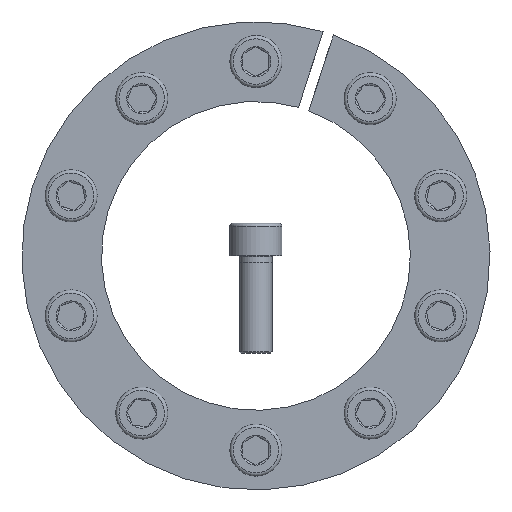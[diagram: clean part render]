
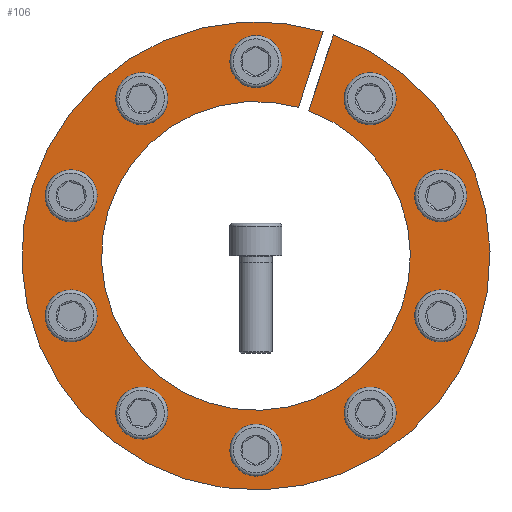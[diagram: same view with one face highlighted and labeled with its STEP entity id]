
A CAD part, front view. The second image highlights one B-rep face of the part: STEP entity #106.
In plain terms, the highlighted planar face has unit normal (0, -1, 0).
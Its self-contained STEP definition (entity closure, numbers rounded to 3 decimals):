
#106 = ADVANCED_FACE( '', ( #247, #248, #249, #250, #251, #252, #253, #254, #255, #256, #257 ), #258, .F. );
#247 = FACE_BOUND( '', #437, .T. );
#248 = FACE_BOUND( '', #438, .T. );
#249 = FACE_BOUND( '', #439, .T. );
#250 = FACE_BOUND( '', #440, .T. );
#251 = FACE_BOUND( '', #441, .T. );
#252 = FACE_BOUND( '', #442, .T. );
#253 = FACE_BOUND( '', #443, .T. );
#254 = FACE_BOUND( '', #444, .T. );
#255 = FACE_BOUND( '', #445, .T. );
#256 = FACE_BOUND( '', #446, .T. );
#257 = FACE_OUTER_BOUND( '', #447, .T. );
#258 = PLANE( '', #448 );
#437 = EDGE_LOOP( '', ( #714 ) );
#438 = EDGE_LOOP( '', ( #715 ) );
#439 = EDGE_LOOP( '', ( #716 ) );
#440 = EDGE_LOOP( '', ( #717 ) );
#441 = EDGE_LOOP( '', ( #718 ) );
#442 = EDGE_LOOP( '', ( #719 ) );
#443 = EDGE_LOOP( '', ( #720 ) );
#444 = EDGE_LOOP( '', ( #721 ) );
#445 = EDGE_LOOP( '', ( #722 ) );
#446 = EDGE_LOOP( '', ( #723 ) );
#447 = EDGE_LOOP( '', ( #724, #725, #726, #727 ) );
#448 = AXIS2_PLACEMENT_3D( '', #728, #729, #730 );
#714 = ORIENTED_EDGE( '', *, *, #974, .T. );
#715 = ORIENTED_EDGE( '', *, *, #975, .T. );
#716 = ORIENTED_EDGE( '', *, *, #976, .T. );
#717 = ORIENTED_EDGE( '', *, *, #977, .T. );
#718 = ORIENTED_EDGE( '', *, *, #978, .T. );
#719 = ORIENTED_EDGE( '', *, *, #979, .T. );
#720 = ORIENTED_EDGE( '', *, *, #980, .T. );
#721 = ORIENTED_EDGE( '', *, *, #957, .T. );
#722 = ORIENTED_EDGE( '', *, *, #965, .T. );
#723 = ORIENTED_EDGE( '', *, *, #925, .T. );
#724 = ORIENTED_EDGE( '', *, *, #981, .T. );
#725 = ORIENTED_EDGE( '', *, *, #969, .T. );
#726 = ORIENTED_EDGE( '', *, *, #928, .T. );
#727 = ORIENTED_EDGE( '', *, *, #960, .F. );
#728 = CARTESIAN_POINT( '', ( 0., 0., 72. ) );
#729 = DIRECTION( '', ( 0., 1., 0. ) );
#730 = DIRECTION( '', ( 0., 0., 1. ) );
#925 = EDGE_CURVE( '', #1105, #1105, #1106, .T. );
#928 = EDGE_CURVE( '', #1111, #1109, #1112, .T. );
#957 = EDGE_CURVE( '', #1158, #1158, #1159, .T. );
#960 = EDGE_CURVE( '', #1162, #1109, #1164, .T. );
#965 = EDGE_CURVE( '', #1170, #1170, #1171, .T. );
#969 = EDGE_CURVE( '', #1174, #1111, #1177, .T. );
#974 = EDGE_CURVE( '', #1183, #1183, #1184, .T. );
#975 = EDGE_CURVE( '', #1185, #1185, #1186, .T. );
#976 = EDGE_CURVE( '', #1187, #1187, #1188, .T. );
#977 = EDGE_CURVE( '', #1189, #1189, #1190, .T. );
#978 = EDGE_CURVE( '', #1191, #1191, #1192, .T. );
#979 = EDGE_CURVE( '', #1193, #1193, #1194, .T. );
#980 = EDGE_CURVE( '', #1195, #1195, #1196, .T. );
#981 = EDGE_CURVE( '', #1162, #1174, #1197, .T. );
#1105 = VERTEX_POINT( '', #1416 );
#1106 = CIRCLE( '', #1417, 5. );
#1109 = VERTEX_POINT( '', #1420 );
#1111 = VERTEX_POINT( '', #1423 );
#1112 = LINE( '', #1424, #1425 );
#1158 = VERTEX_POINT( '', #1485 );
#1159 = CIRCLE( '', #1486, 5. );
#1162 = VERTEX_POINT( '', #1489 );
#1164 = CIRCLE( '', #1492, 47.5 );
#1170 = VERTEX_POINT( '', #1498 );
#1171 = CIRCLE( '', #1499, 5. );
#1174 = VERTEX_POINT( '', #1502 );
#1177 = CIRCLE( '', #1506, 72. );
#1183 = VERTEX_POINT( '', #1515 );
#1184 = CIRCLE( '', #1516, 5. );
#1185 = VERTEX_POINT( '', #1517 );
#1186 = CIRCLE( '', #1518, 5. );
#1187 = VERTEX_POINT( '', #1519 );
#1188 = CIRCLE( '', #1520, 5. );
#1189 = VERTEX_POINT( '', #1521 );
#1190 = CIRCLE( '', #1522, 5. );
#1191 = VERTEX_POINT( '', #1523 );
#1192 = CIRCLE( '', #1524, 5. );
#1193 = VERTEX_POINT( '', #1525 );
#1194 = CIRCLE( '', #1526, 5. );
#1195 = VERTEX_POINT( '', #1527 );
#1196 = CIRCLE( '', #1528, 5. );
#1197 = LINE( '', #1529, #1530 );
#1416 = CARTESIAN_POINT( '', ( -55.281, 0., 23.219 ) );
#1417 = AXIS2_PLACEMENT_3D( '', #1645, #1646, #1647 );
#1420 = CARTESIAN_POINT( '', ( 16.274, 0., 44.625 ) );
#1423 = CARTESIAN_POINT( '', ( 23.848, 0., 67.936 ) );
#1424 = CARTESIAN_POINT( '', ( 23.854, 0., 67.955 ) );
#1425 = VECTOR( '', #1649, 1000. );
#1485 = CARTESIAN_POINT( '', ( 31.075, 0., -51.278 ) );
#1486 = AXIS2_PLACEMENT_3D( '', #1694, #1695, #1696 );
#1489 = CARTESIAN_POINT( '', ( 13.064, 0., 45.668 ) );
#1492 = AXIS2_PLACEMENT_3D( '', #1698, #1699, #1700 );
#1498 = CARTESIAN_POINT( '', ( -39.165, 0., -45.4 ) );
#1499 = AXIS2_PLACEMENT_3D( '', #1707, #1708, #1709 );
#1502 = CARTESIAN_POINT( '', ( 20.638, 0., 68.979 ) );
#1506 = AXIS2_PLACEMENT_3D( '', #1714, #1715, #1716 );
#1515 = CARTESIAN_POINT( '', ( -31.075, 0., 51.278 ) );
#1516 = AXIS2_PLACEMENT_3D( '', #1720, #1721, #1722 );
#1517 = CARTESIAN_POINT( '', ( -58.371, 0., -13.708 ) );
#1518 = AXIS2_PLACEMENT_3D( '', #1723, #1724, #1725 );
#1519 = CARTESIAN_POINT( '', ( -5., 0., -59.75 ) );
#1520 = AXIS2_PLACEMENT_3D( '', #1726, #1727, #1728 );
#1521 = CARTESIAN_POINT( '', ( 55.281, 0., -23.219 ) );
#1522 = AXIS2_PLACEMENT_3D( '', #1729, #1730, #1731 );
#1523 = CARTESIAN_POINT( '', ( 39.165, 0., 45.4 ) );
#1524 = AXIS2_PLACEMENT_3D( '', #1732, #1733, #1734 );
#1525 = CARTESIAN_POINT( '', ( 5., 0., 59.75 ) );
#1526 = AXIS2_PLACEMENT_3D( '', #1735, #1736, #1737 );
#1527 = CARTESIAN_POINT( '', ( 58.371, 0., 13.708 ) );
#1528 = AXIS2_PLACEMENT_3D( '', #1738, #1739, #1740 );
#1529 = CARTESIAN_POINT( '', ( 13.064, 0., 45.668 ) );
#1530 = VECTOR( '', #1741, 1000. );
#1645 = CARTESIAN_POINT( '', ( -56.826, 0., 18.464 ) );
#1646 = DIRECTION( '', ( 0., 1., 0. ) );
#1647 = DIRECTION( '', ( 0.309, 0., 0.951 ) );
#1649 = DIRECTION( '', ( -0.309, 0., -0.951 ) );
#1694 = CARTESIAN_POINT( '', ( 35.12, 0., -48.339 ) );
#1695 = DIRECTION( '', ( 0., 1., 0. ) );
#1696 = DIRECTION( '', ( -0.809, 0., -0.588 ) );
#1698 = CARTESIAN_POINT( '', ( 0., 0., 0. ) );
#1699 = DIRECTION( '', ( 0., -1., 0. ) );
#1700 = DIRECTION( '', ( 0., 0., -1. ) );
#1707 = CARTESIAN_POINT( '', ( -35.12, 0., -48.339 ) );
#1708 = DIRECTION( '', ( 0., 1., 0. ) );
#1709 = DIRECTION( '', ( -0.809, 0., 0.588 ) );
#1714 = CARTESIAN_POINT( '', ( 0., 0., 0. ) );
#1715 = DIRECTION( '', ( 0., -1., 0. ) );
#1716 = DIRECTION( '', ( 0., 0., -1. ) );
#1720 = CARTESIAN_POINT( '', ( -35.12, 0., 48.339 ) );
#1721 = DIRECTION( '', ( 0., 1., 0. ) );
#1722 = DIRECTION( '', ( 0.809, 0., 0.588 ) );
#1723 = CARTESIAN_POINT( '', ( -56.826, 0., -18.464 ) );
#1724 = DIRECTION( '', ( 0., 1., 0. ) );
#1725 = DIRECTION( '', ( -0.309, 0., 0.951 ) );
#1726 = CARTESIAN_POINT( '', ( 0., 0., -59.75 ) );
#1727 = DIRECTION( '', ( 0., 1., 0. ) );
#1728 = DIRECTION( '', ( -1., 0., 0. ) );
#1729 = CARTESIAN_POINT( '', ( 56.826, 0., -18.464 ) );
#1730 = DIRECTION( '', ( 0., 1., 0. ) );
#1731 = DIRECTION( '', ( -0.309, 0., -0.951 ) );
#1732 = CARTESIAN_POINT( '', ( 35.12, 0., 48.339 ) );
#1733 = DIRECTION( '', ( 0., 1., 0. ) );
#1734 = DIRECTION( '', ( 0.809, 0., -0.588 ) );
#1735 = CARTESIAN_POINT( '', ( 0., 0., 59.75 ) );
#1736 = DIRECTION( '', ( 0., 1., 0. ) );
#1737 = DIRECTION( '', ( 1., 0., 0. ) );
#1738 = CARTESIAN_POINT( '', ( 56.826, 0., 18.464 ) );
#1739 = DIRECTION( '', ( 0., 1., 0. ) );
#1740 = DIRECTION( '', ( 0.309, 0., -0.951 ) );
#1741 = DIRECTION( '', ( 0.309, 0., 0.951 ) );
